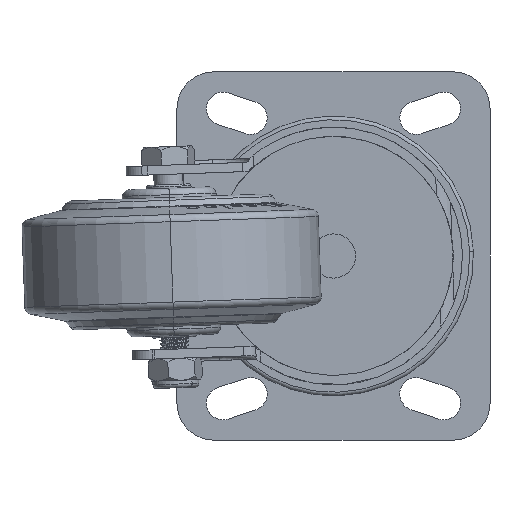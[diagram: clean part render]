
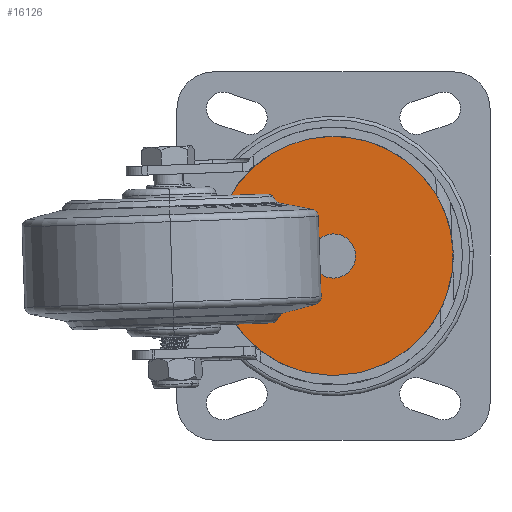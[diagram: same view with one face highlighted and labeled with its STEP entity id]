
A CAD part, front view. The second image highlights one B-rep face of the part: STEP entity #16126.
In plain terms, the highlighted planar face has unit normal (0, -1, 0) as drawn and (0, 1, 0) by its records, which use the part's own axes.
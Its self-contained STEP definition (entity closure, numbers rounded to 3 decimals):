
#21 = CIRCLE ( 'NONE', #21783, 32.5 ) ;
#411 = ORIENTED_EDGE ( 'NONE', *, *, #10579, .F. ) ;
#1616 = CARTESIAN_POINT ( 'NONE',  ( 0., 2.5, 32.5 ) ) ;
#2183 = CARTESIAN_POINT ( 'NONE',  ( 0., 2.5, -6. ) ) ;
#2361 = CARTESIAN_POINT ( 'NONE',  ( 0., 2.5, 0. ) ) ;
#2979 = DIRECTION ( 'NONE',  ( 0., 1., 0. ) ) ;
#4130 = ORIENTED_EDGE ( 'NONE', *, *, #37341, .T. ) ;
#4668 = DIRECTION ( 'NONE',  ( 0., 1., 0. ) ) ;
#5051 = VERTEX_POINT ( 'NONE', #2183 ) ;
#5495 = VERTEX_POINT ( 'NONE', #26698 ) ;
#6718 = FACE_OUTER_BOUND ( 'NONE', #12587, .T. ) ;
#9043 = AXIS2_PLACEMENT_3D ( 'NONE', #33773, #10187, #39945 ) ;
#10187 = DIRECTION ( 'NONE',  ( 0., 1., 0. ) ) ;
#10579 = EDGE_CURVE ( 'NONE', #5051, #5495, #40901, .T. ) ;
#12587 = EDGE_LOOP ( 'NONE', ( #40438, #4130 ) ) ;
#15752 = DIRECTION ( 'NONE',  ( 0., 0., 1. ) ) ;
#16126 = ADVANCED_FACE ( 'NONE', ( #26333, #6718 ), #32547, .T. ) ;
#16505 = DIRECTION ( 'NONE',  ( 0., 1., 0. ) ) ;
#16957 = AXIS2_PLACEMENT_3D ( 'NONE', #33159, #2979, #15752 ) ;
#17374 = AXIS2_PLACEMENT_3D ( 'NONE', #35522, #4668, #29112 ) ;
#18708 = VERTEX_POINT ( 'NONE', #31178 ) ;
#21783 = AXIS2_PLACEMENT_3D ( 'NONE', #29747, #16505, #43165 ) ;
#22601 = DIRECTION ( 'NONE',  ( 0., 1., 0. ) ) ;
#22674 = AXIS2_PLACEMENT_3D ( 'NONE', #2361, #22601, #42654 ) ;
#26333 = FACE_BOUND ( 'NONE', #28187, .T. ) ;
#26698 = CARTESIAN_POINT ( 'NONE',  ( 0., 2.5, 6. ) ) ;
#28187 = EDGE_LOOP ( 'NONE', ( #411, #38728 ) ) ;
#29112 = DIRECTION ( 'NONE',  ( 0., 0., 1. ) ) ;
#29747 = CARTESIAN_POINT ( 'NONE',  ( 0., 2.5, 0. ) ) ;
#29979 = VERTEX_POINT ( 'NONE', #1616 ) ;
#30049 = CIRCLE ( 'NONE', #17374, 32.5 ) ;
#31178 = CARTESIAN_POINT ( 'NONE',  ( 0., 2.5, -32.5 ) ) ;
#32547 = PLANE ( 'NONE',  #22674 ) ;
#32757 = EDGE_CURVE ( 'NONE', #18708, #29979, #30049, .T. ) ;
#33159 = CARTESIAN_POINT ( 'NONE',  ( 0., 2.5, 0. ) ) ;
#33773 = CARTESIAN_POINT ( 'NONE',  ( 0., 2.5, 0. ) ) ;
#35522 = CARTESIAN_POINT ( 'NONE',  ( 0., 2.5, 0. ) ) ;
#37341 = EDGE_CURVE ( 'NONE', #29979, #18708, #21, .T. ) ;
#37811 = EDGE_CURVE ( 'NONE', #5495, #5051, #40027, .T. ) ;
#38728 = ORIENTED_EDGE ( 'NONE', *, *, #37811, .F. ) ;
#39945 = DIRECTION ( 'NONE',  ( 0., 0., 1. ) ) ;
#40027 = CIRCLE ( 'NONE', #9043, 6. ) ;
#40438 = ORIENTED_EDGE ( 'NONE', *, *, #32757, .T. ) ;
#40901 = CIRCLE ( 'NONE', #16957, 6. ) ;
#42654 = DIRECTION ( 'NONE',  ( 0., 0., 1. ) ) ;
#43165 = DIRECTION ( 'NONE',  ( 0., 0., 1. ) ) ;
